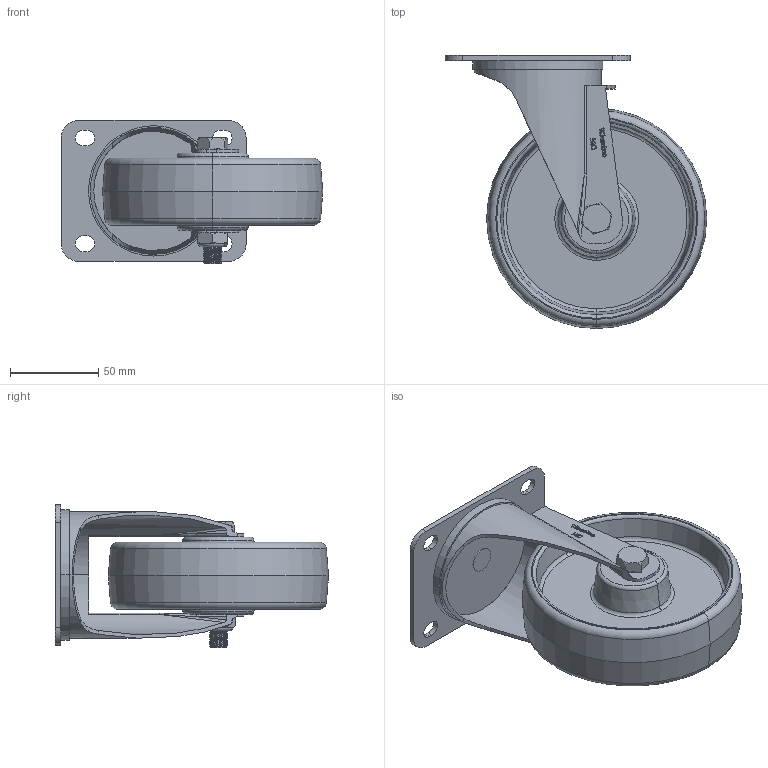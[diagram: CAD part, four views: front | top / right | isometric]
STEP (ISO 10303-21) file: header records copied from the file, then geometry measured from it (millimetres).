
FILE_DESCRIPTION (( 'STEP AP214' ), '1' );
FILE_NAME ('MCN125-P.step', '2023-11-29T20:24:42', ( '' ), ( '' ), 'SwSTEP 2.0', 'SolidWorks 2022', '' );
FILE_SCHEMA (( 'AUTOMOTIVE_DESIGN' ));
Length unit declared in the file: millimetre
Products named in the file (7): MC125-P; M10X65 STAINLESS BOLT; MC 105x80 Swivel Plate; M10 Nyloc SS; MCN125-P; MCN125; SP15-10-47
Assembly tree (6 placements, depth 2):
  MCN125-P
    MC125-P
    MC 105x80 Swivel Plate
    M10 Nyloc SS
    M10X65 STAINLESS BOLT
    SP15-10-47
    MCN125
Bounding box: 148.5 x 155 x 81.25 mm (x, y, z)
Volume: 285801.2 mm3; surface area: 107178.4 mm2
Topology: 6 solids, 6 shells, 450 faces, 1198 edges, 784 vertices
Faces by surface type: plane 179, cylinder 135, bspline 77, cone 33, torus 26
Entity records: 24376 total; most frequent: CARTESIAN_POINT 12633, ORIENTED_EDGE 2396, DIRECTION 1817, EDGE_CURVE 1198, VERTEX_POINT 784, LINE 625, VECTOR 625, AXIS2_PLACEMENT_3D 596
